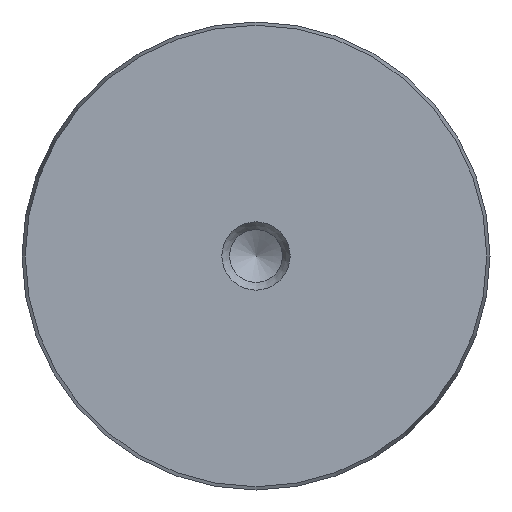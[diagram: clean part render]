
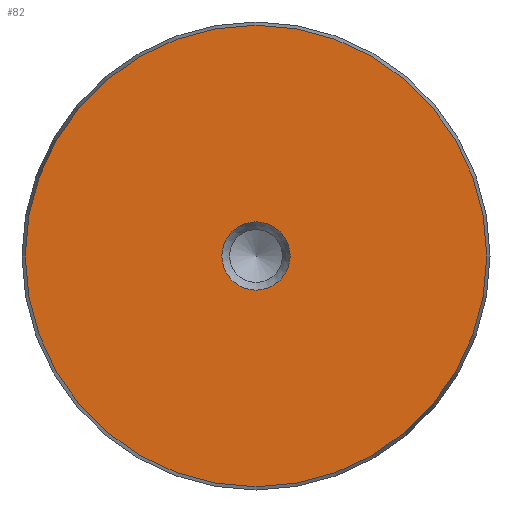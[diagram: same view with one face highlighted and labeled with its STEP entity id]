
A CAD part, front view. The second image highlights one B-rep face of the part: STEP entity #82.
In plain terms, the highlighted planar face has unit normal (0, -1, 0).
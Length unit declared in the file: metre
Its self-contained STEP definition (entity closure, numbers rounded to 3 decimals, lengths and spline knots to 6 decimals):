
#82 = ADVANCED_FACE( '', ( #108, #109 ), #110, .T. );
#108 = FACE_BOUND( '', #150, .T. );
#109 = FACE_OUTER_BOUND( '', #151, .T. );
#110 = PLANE( '', #152 );
#150 = EDGE_LOOP( '', ( #202 ) );
#151 = EDGE_LOOP( '', ( #203 ) );
#152 = AXIS2_PLACEMENT_3D( '', #204, #205, #206 );
#202 = ORIENTED_EDGE( '', *, *, #252, .T. );
#203 = ORIENTED_EDGE( '', *, *, #254, .T. );
#204 = CARTESIAN_POINT( '', ( 0., -0.2, 0. ) );
#205 = DIRECTION( '', ( 0., -1., 0. ) );
#206 = DIRECTION( '', ( 0., 0., -1. ) );
#252 = EDGE_CURVE( '', #270, #270, #271, .F. );
#254 = EDGE_CURVE( '', #274, #274, #275, .T. );
#270 = VERTEX_POINT( '', #296 );
#271 = CIRCLE( '', #297, 0.004375 );
#274 = VERTEX_POINT( '', #300 );
#275 = CIRCLE( '', #301, 0.029578 );
#296 = CARTESIAN_POINT( '', ( 0., -0.2, -0.004375 ) );
#297 = AXIS2_PLACEMENT_3D( '', #326, #327, #328 );
#300 = CARTESIAN_POINT( '', ( 0., -0.2, -0.029578 ) );
#301 = AXIS2_PLACEMENT_3D( '', #332, #333, #334 );
#326 = CARTESIAN_POINT( '', ( 0., -0.2, 0. ) );
#327 = DIRECTION( '', ( 0., -1., 0. ) );
#328 = DIRECTION( '', ( 0., 0., -1. ) );
#332 = CARTESIAN_POINT( '', ( 0., -0.2, 0. ) );
#333 = DIRECTION( '', ( 0., -1., 0. ) );
#334 = DIRECTION( '', ( 0., 0., -1. ) );
